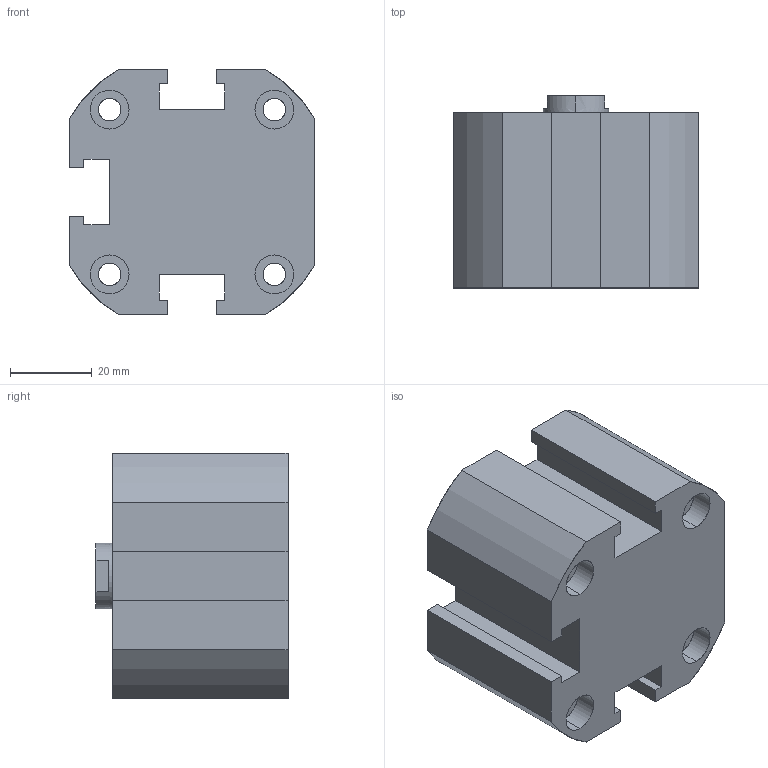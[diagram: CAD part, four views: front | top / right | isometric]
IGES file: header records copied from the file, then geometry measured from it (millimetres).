
Start section: SolidWorks IGES file using analytic representation for surfaces
Global section: file name: C:\Users\Toshiba\Desktop\XC#2-40D-10.IGS; native system: SolidWorks 2014; preprocessor: SolidWorks 2014; author: Toshiba; date: 160523.161027; units: millimetre
Bounding box: 60 x 47 x 60 mm (x, y, z)
Surface area: 23389.1 mm2 (no closed solid volume)
Topology: 0 solids, 0 shells, 114 faces, 2014 edges, 2008 vertices
Faces by surface type: revolution 64, bspline 50
